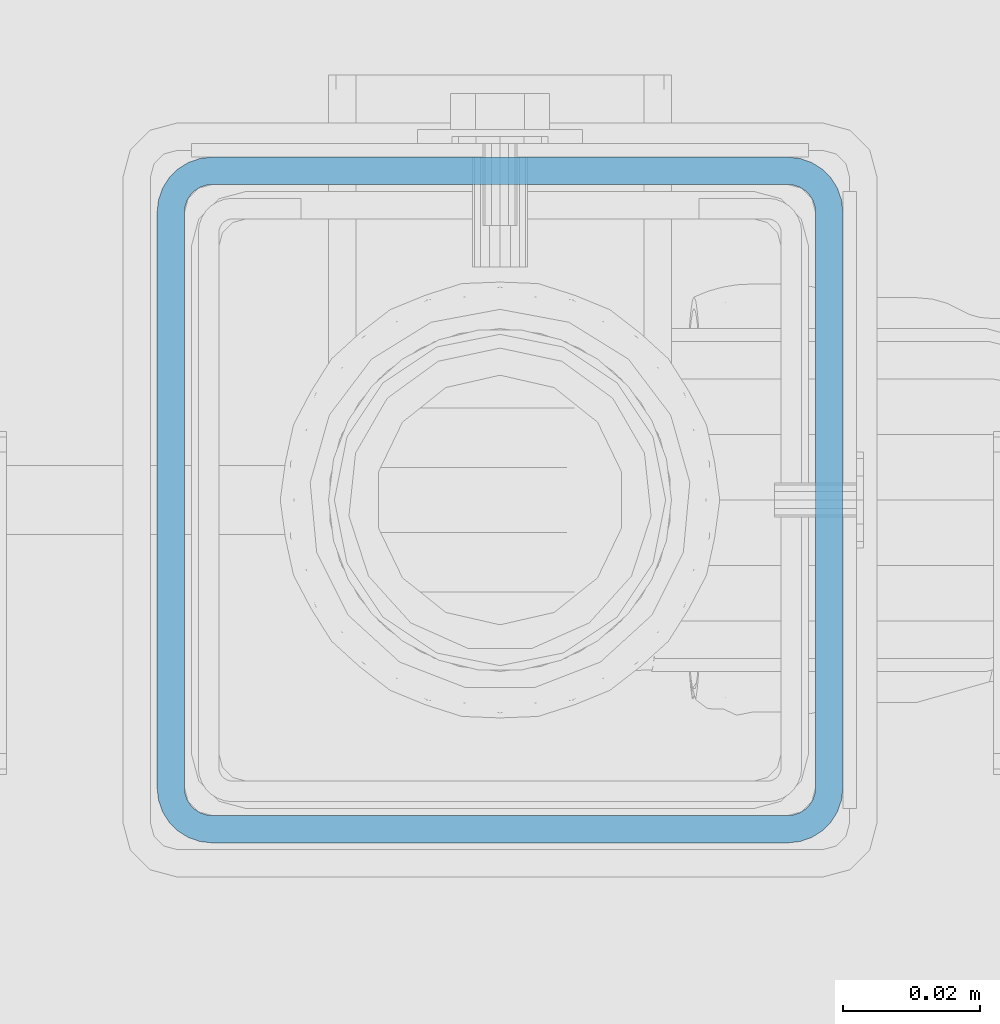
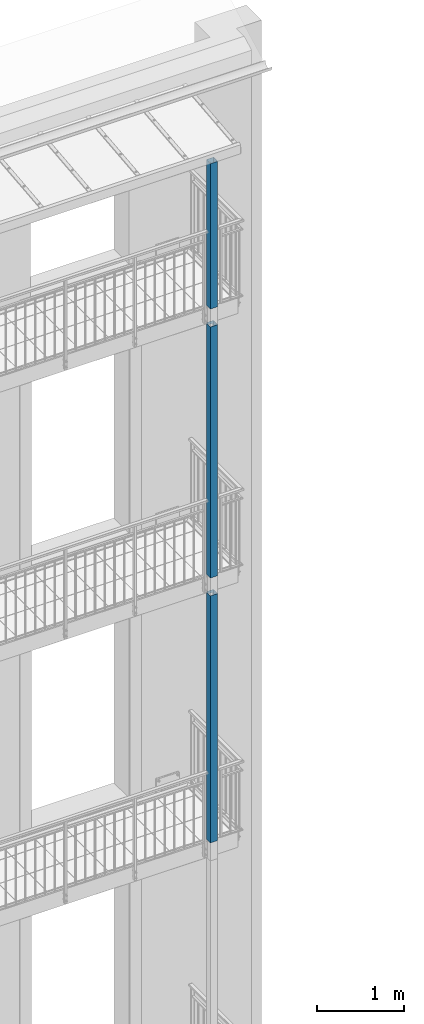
# One storey, part 9 of 162: 3 columns, 10 openings.
"""IFC2X3 building model written with IfcOpenShell, lengths in millimetres."""

from ifc_helpers import new_model, entity, si_unit, converted_unit, point, frame, frame_2d, origin, origin_with_axes, origin_2d, origin_2d_with_axis, place, context, project, spatial, circle_curve, line_curve, trimmed, segment, composite_curve, hollow_rectangle, circle, outline, extrude, material, element, save


model = new_model("IFC2X3")

# Units and contexts
model_context = context("Model", 3, precision=1e-09, world=origin_with_axes())
ifc_project = project(units=[si_unit("LENGTHUNIT", "METRE", prefix="MILLI"), si_unit("AREAUNIT", "SQUARE_METRE"), si_unit("VOLUMEUNIT", "CUBIC_METRE"), converted_unit("PLANEANGLEUNIT", "DEGREE", entity("IfcPlaneAngleMeasure", 0.01745329), si_unit("PLANEANGLEUNIT", "RADIAN"), dimensions=[0, 0, 0, 0, 0, 0, 0])], contexts=[model_context])

# Site, building, storey
site_placement = place(None, origin_with_axes())
site = spatial("IfcSite", under=ifc_project, at=site_placement, Name="Hermannstra?e 1a, 60318 Frankfurt", CompositionType="ELEMENT")
building_placement = place(site_placement, origin_with_axes())
building = spatial("IfcBuilding", under=site, at=building_placement, Name="Struktur 1", CompositionType="ELEMENT")
storey_placement = place(building_placement, origin_with_axes())
storey = spatial("IfcBuildingStorey", under=building, at=storey_placement, Name="Default Storey", CompositionType="ELEMENT", Elevation=0.0)

# Column, openings
ifc_material = material(Name="S235JR")
column_1_placement = place(None, frame((5473.30936482, 1530.609373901, 7790.0), z_axis=(0.0, 0.0, 1.0), x_axis=(0.0, -1.0, 0.0)))
column_1 = element("IfcColumn", 1, at=column_1_placement, inside=storey, material=ifc_material, Name="-", ObjectType="-", context=model_context, shape_type="SweptSolid", body=[
    extrude(hollow_rectangle(XDim=100.0, YDim=100.0, WallThickness=4.0, InnerFilletRadius=4.0, OuterFilletRadius=8.0, at=origin_2d()), origin(), (0.0, 0.0, 1.0), 3449.999),
])
opening_1_placement = place(column_1_placement, frame((-150.1, 35.001, 3277.498), z_axis=(-1.0, 0.0, 0.0), x_axis=(0.0, -0.707106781, -0.707106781)))
element("IfcOpeningElement", 2, at=opening_1_placement, cuts=column_1, ObjectType="Opening", context=model_context, shape_type="SweptSolid", body=[
    extrude(outline(composite_curve([segment(trimmed(circle_curve(frame_2d((7.071067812, 7.071067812), x_axis=(1.0, 0.0)), 10.0), [point((0.0, 0.0))], [point((14.142135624, 0.0))], True, "CARTESIAN"), True, "CONTINUOUS"), segment(trimmed(line_curve((14.142135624, 0.0), (0.707106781, 0.707106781), 50.002), [point((14.142135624, 0.0))], [point((49.498888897, 35.356753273))], True, "CARTESIAN"), True, "CONTINUOUS"), segment(trimmed(circle_curve(frame_2d((42.427821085, 42.427821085), x_axis=(1.0, 0.0)), 10.0), [point((49.498888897, 35.356753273))], [point((49.498888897, 49.498888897))], True, "CARTESIAN"), True, "CONTINUOUS"), segment(trimmed(line_curve((49.498888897, 49.498888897), (-0.707106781, 0.707106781), 125.002), [point((49.498888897, 49.498888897))], [point((-38.890872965, 137.888650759))], True, "CARTESIAN"), True, "CONTINUOUS"), segment(trimmed(circle_curve(frame_2d((-45.961940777, 130.817582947), x_axis=(1.0, 0.0)), 10.0), [point((-38.890872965, 137.888650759))], [point((-53.033008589, 137.888650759))], True, "CARTESIAN"), True, "CONTINUOUS"), segment(trimmed(line_curve((-53.033008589, 137.888650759), (-0.707106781, -0.707106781), 50.002), [point((-53.033008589, 137.888650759))], [point((-88.389761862, 102.531897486))], True, "CARTESIAN"), True, "CONTINUOUS"), segment(trimmed(circle_curve(frame_2d((-81.31869405, 95.460829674), x_axis=(1.0, 0.0)), 10.0), [point((-88.389761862, 102.531897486))], [point((-88.389761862, 88.389761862))], True, "CARTESIAN"), True, "CONTINUOUS"), segment(trimmed(line_curve((-88.389761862, 88.389761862), (0.707106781, -0.707106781), 125.002), [point((-88.389761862, 88.389761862))], [point((0.0, 0.0))], True, "CARTESIAN"), True, "CONTINUOUS")], self_intersect=False)), origin(), (0.0, 0.0, -1.0), 170.1),
])
opening_2_placement = place(column_1_placement, frame((-45.5, 0.0, 3339.999), z_axis=(-1.0, 0.0, 0.0), x_axis=(0.0, -1.0, 0.0)))
element("IfcOpeningElement", 3, at=opening_2_placement, cuts=column_1, ObjectType="Opening", context=model_context, shape_type="SweptSolid", body=[
    extrude(circle(Radius=2.751, at=frame_2d((0.0, 90.0), x_axis=(1.0, 0.0))), origin(), (0.0, 0.0, 1.0), 5.0),
])
opening_3_placement = place(column_1_placement, frame((-45.5, 0.0, 3339.999), z_axis=(-1.0, 0.0, 0.0), x_axis=(0.0, -1.0, 0.0)))
element("IfcOpeningElement", 4, at=opening_3_placement, cuts=column_1, ObjectType="Opening", context=model_context, shape_type="SweptSolid", body=[
    extrude(circle(Radius=2.751, at=frame_2d((0.0, -90.0), x_axis=(1.0, 0.0))), origin(), (0.0, 0.0, 1.0), 5.0),
])

column_2_placement = place(None, frame((5473.30936482, 1530.609373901, 11489.999), z_axis=(0.0, 0.0, 1.0), x_axis=(0.0, -1.0, 0.0)))
column_2 = element("IfcColumn", 5, at=column_2_placement, inside=storey, material=ifc_material, Name="-", ObjectType="-", context=model_context, shape_type="SweptSolid", body=[
    extrude(hollow_rectangle(XDim=100.0, YDim=100.0, WallThickness=4.0, InnerFilletRadius=4.0, OuterFilletRadius=8.0, at=origin_2d()), origin(), (0.0, 0.0, 1.0), 3507.0),
])
opening_4_placement = place(column_2_placement, frame((-150.1, 35.001, 3334.499), z_axis=(-1.0, 0.0, 0.0), x_axis=(0.0, -0.707106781, -0.707106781)))
element("IfcOpeningElement", 6, at=opening_4_placement, cuts=column_2, ObjectType="Opening", context=model_context, shape_type="SweptSolid", body=[
    extrude(outline(composite_curve([segment(trimmed(circle_curve(frame_2d((7.071067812, 7.071067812), x_axis=(1.0, 0.0)), 10.0), [point((0.0, 0.0))], [point((14.142135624, 0.0))], True, "CARTESIAN"), True, "CONTINUOUS"), segment(trimmed(line_curve((14.142135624, 0.0), (0.707106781, 0.707106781), 50.002), [point((14.142135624, 0.0))], [point((49.498888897, 35.356753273))], True, "CARTESIAN"), True, "CONTINUOUS"), segment(trimmed(circle_curve(frame_2d((42.427821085, 42.427821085), x_axis=(1.0, 0.0)), 10.0), [point((49.498888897, 35.356753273))], [point((49.498888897, 49.498888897))], True, "CARTESIAN"), True, "CONTINUOUS"), segment(trimmed(line_curve((49.498888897, 49.498888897), (-0.707106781, 0.707106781), 125.002), [point((49.498888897, 49.498888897))], [point((-38.890872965, 137.888650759))], True, "CARTESIAN"), True, "CONTINUOUS"), segment(trimmed(circle_curve(frame_2d((-45.961940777, 130.817582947), x_axis=(1.0, 0.0)), 10.0), [point((-38.890872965, 137.888650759))], [point((-53.033008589, 137.888650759))], True, "CARTESIAN"), True, "CONTINUOUS"), segment(trimmed(line_curve((-53.033008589, 137.888650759), (-0.707106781, -0.707106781), 50.002), [point((-53.033008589, 137.888650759))], [point((-88.389761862, 102.531897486))], True, "CARTESIAN"), True, "CONTINUOUS"), segment(trimmed(circle_curve(frame_2d((-81.31869405, 95.460829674), x_axis=(1.0, 0.0)), 10.0), [point((-88.389761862, 102.531897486))], [point((-88.389761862, 88.389761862))], True, "CARTESIAN"), True, "CONTINUOUS"), segment(trimmed(line_curve((-88.389761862, 88.389761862), (0.707106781, -0.707106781), 125.002), [point((-88.389761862, 88.389761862))], [point((0.0, 0.0))], True, "CARTESIAN"), True, "CONTINUOUS")], self_intersect=False)), origin(), (0.0, 0.0, -1.0), 170.1),
])
opening_5_placement = place(column_2_placement, frame((-45.5, 0.0, 3397.0), z_axis=(-1.0, 0.0, 0.0), x_axis=(0.0, -1.0, 0.0)))
element("IfcOpeningElement", 7, at=opening_5_placement, cuts=column_2, ObjectType="Opening", context=model_context, shape_type="SweptSolid", body=[
    extrude(circle(Radius=2.751, at=frame_2d((0.0, 90.0), x_axis=(1.0, 0.0))), origin(), (0.0, 0.0, 1.0), 5.0),
])
opening_6_placement = place(column_2_placement, frame((-45.5, 0.0, 3397.0), z_axis=(-1.0, 0.0, 0.0), x_axis=(0.0, -1.0, 0.0)))
element("IfcOpeningElement", 8, at=opening_6_placement, cuts=column_2, ObjectType="Opening", context=model_context, shape_type="SweptSolid", body=[
    extrude(circle(Radius=2.751, at=frame_2d((0.0, -90.0), x_axis=(1.0, 0.0))), origin(), (0.0, 0.0, 1.0), 5.0),
])

column_3_placement = place(None, frame((5473.30936482, 1530.609373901, 15246.999), z_axis=(0.0, 0.0, 1.0), x_axis=(0.0, -1.0, 0.0)))
column_3 = element("IfcColumn", 9, at=column_3_placement, inside=storey, material=ifc_material, Name="-", ObjectType="-", context=model_context, shape_type="SweptSolid", body=[
    extrude(hollow_rectangle(XDim=100.0, YDim=100.0, WallThickness=4.0, InnerFilletRadius=4.0, OuterFilletRadius=8.0, at=origin_2d()), origin(), (0.0, 0.0, 1.0), 2030.001),
])
opening_7_placement = place(column_3_placement, frame((-45.5, 0.0, 1920.001), z_axis=(-1.0, 0.0, 0.0), x_axis=(0.0, -1.0, 0.0)))
element("IfcOpeningElement", 10, at=opening_7_placement, cuts=column_3, ObjectType="Opening", context=model_context, shape_type="SweptSolid", body=[
    extrude(circle(Radius=2.751, at=frame_2d((0.0, 10.0), x_axis=(1.0, 0.0))), origin(), (0.0, 0.0, 1.0), 5.0),
])
opening_8_placement = place(column_3_placement, frame((-45.5, 0.0, 1920.001), z_axis=(-1.0, 0.0, 0.0), x_axis=(0.0, -1.0, 0.0)))
element("IfcOpeningElement", 11, at=opening_8_placement, cuts=column_3, ObjectType="Opening", context=model_context, shape_type="SweptSolid", body=[
    extrude(circle(Radius=2.751, at=frame_2d((0.0, -170.0), x_axis=(1.0, 0.0))), origin(), (0.0, 0.0, 1.0), 5.0),
])
opening_9_placement = place(column_3_placement, frame((-150.1, 35.001, 1777.5), z_axis=(-1.0, 0.0, 0.0), x_axis=(0.0, -0.707106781, -0.707106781)))
element("IfcOpeningElement", 12, at=opening_9_placement, cuts=column_3, ObjectType="Opening", context=model_context, shape_type="SweptSolid", body=[
    extrude(outline(composite_curve([segment(trimmed(circle_curve(frame_2d((7.071067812, 7.071067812), x_axis=(1.0, 0.0)), 10.0), [point((0.0, 0.0))], [point((14.142135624, 0.0))], True, "CARTESIAN"), True, "CONTINUOUS"), segment(trimmed(line_curve((14.142135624, 0.0), (0.707106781, 0.707106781), 50.002), [point((14.142135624, 0.0))], [point((49.498888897, 35.356753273))], True, "CARTESIAN"), True, "CONTINUOUS"), segment(trimmed(circle_curve(frame_2d((42.427821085, 42.427821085), x_axis=(1.0, 0.0)), 10.0), [point((49.498888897, 35.356753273))], [point((49.498888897, 49.498888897))], True, "CARTESIAN"), True, "CONTINUOUS"), segment(trimmed(line_curve((49.498888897, 49.498888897), (-0.707106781, 0.707106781), 125.002), [point((49.498888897, 49.498888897))], [point((-38.890872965, 137.888650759))], True, "CARTESIAN"), True, "CONTINUOUS"), segment(trimmed(circle_curve(frame_2d((-45.961940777, 130.817582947), x_axis=(1.0, 0.0)), 10.0), [point((-38.890872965, 137.888650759))], [point((-53.033008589, 137.888650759))], True, "CARTESIAN"), True, "CONTINUOUS"), segment(trimmed(line_curve((-53.033008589, 137.888650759), (-0.707106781, -0.707106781), 50.002), [point((-53.033008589, 137.888650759))], [point((-88.389761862, 102.531897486))], True, "CARTESIAN"), True, "CONTINUOUS"), segment(trimmed(circle_curve(frame_2d((-81.31869405, 95.460829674), x_axis=(1.0, 0.0)), 10.0), [point((-88.389761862, 102.531897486))], [point((-88.389761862, 88.389761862))], True, "CARTESIAN"), True, "CONTINUOUS"), segment(trimmed(line_curve((-88.389761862, 88.389761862), (0.707106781, -0.707106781), 125.002), [point((-88.389761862, 88.389761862))], [point((0.0, 0.0))], True, "CARTESIAN"), True, "CONTINUOUS")], self_intersect=False)), origin(), (0.0, 0.0, -1.0), 170.1),
])
opening_10_placement = place(column_3_placement, frame((-45.5, 0.0, 1980.001), z_axis=(-1.0, 0.0, 0.0), x_axis=(0.0, 0.0, 1.0)))
element("IfcOpeningElement", 13, at=opening_10_placement, cuts=column_3, ObjectType="Opening", context=model_context, shape_type="SweptSolid", body=[
    extrude(circle(Radius=7.001, at=origin_2d_with_axis()), origin(), (0.0, 0.0, 1.0), 5.0),
])

save(model, "model.ifc")
